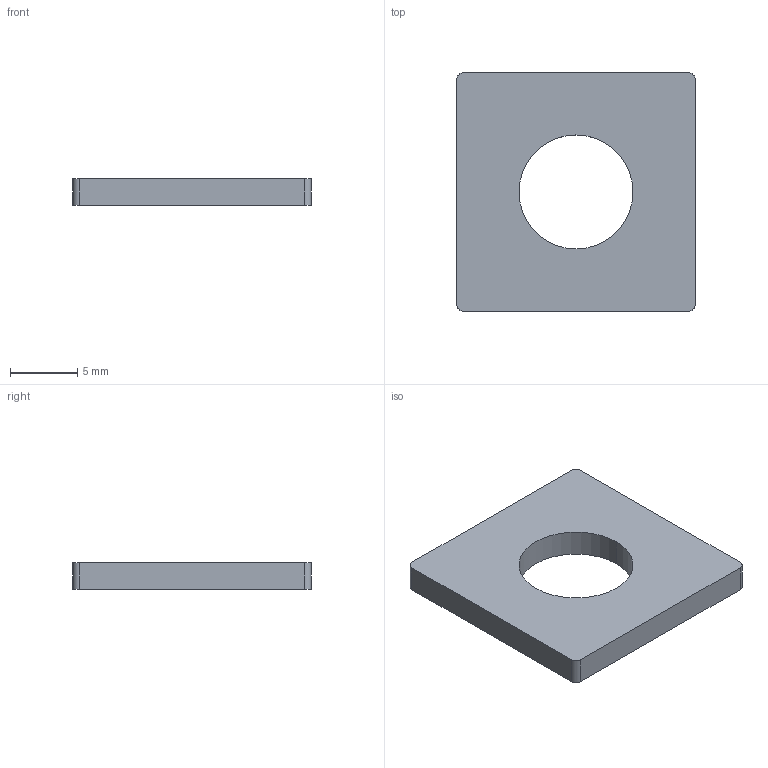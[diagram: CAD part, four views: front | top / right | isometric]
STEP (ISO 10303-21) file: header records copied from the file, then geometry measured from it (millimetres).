
FILE_DESCRIPTION (( 'STEP AP214' ), '1' );
FILE_NAME ('1.2123 Aluslevy M8 40-sarja.STEP', '2025-09-05T09:59:34', ( '' ), ( '' ), 'SwSTEP 2.0', 'SolidWorks 2025', '' );
FILE_SCHEMA (( 'AUTOMOTIVE_DESIGN' ));
Length unit declared in the file: millimetre
Products named in the file (1): 1.2123 Aluslevy M8 40-sarja
Bounding box: 17.8 x 17.8 x 2 mm (x, y, z)
Volume: 519.8 mm3; surface area: 713.9 mm2
Topology: 1 solids, 1 shells, 12 faces, 30 edges, 20 vertices
Faces by surface type: cylinder 6, plane 6
Entity records: 393 total; most frequent: DIRECTION 68, CARTESIAN_POINT 63, ORIENTED_EDGE 60, EDGE_CURVE 30, AXIS2_PLACEMENT_3D 25, VERTEX_POINT 20, VECTOR 18, LINE 18
